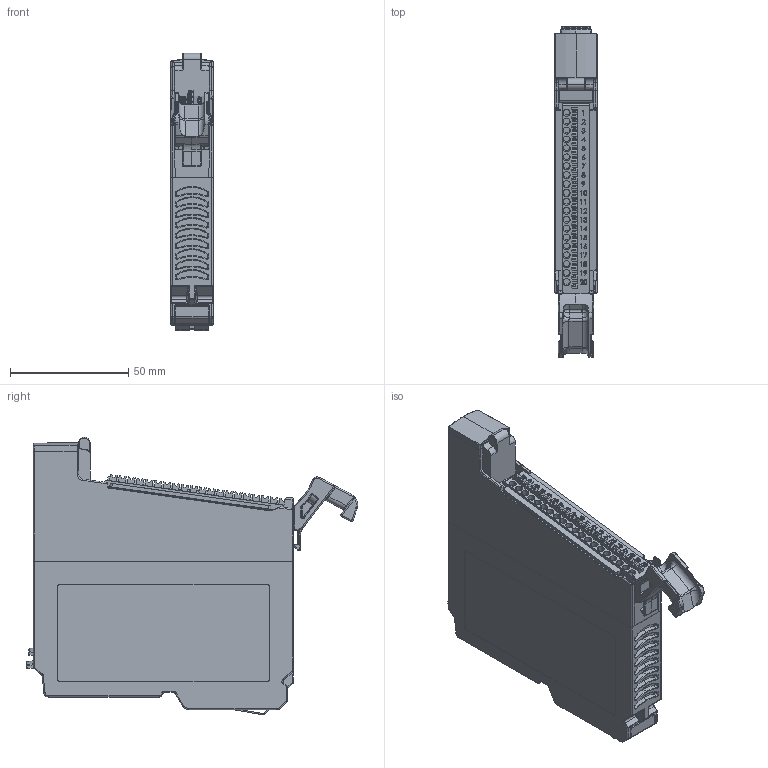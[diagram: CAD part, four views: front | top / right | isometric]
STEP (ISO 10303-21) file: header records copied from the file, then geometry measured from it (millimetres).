
FILE_DESCRIPTION (( 'STEP AP214' ), '1' );
FILE_NAME ('NJ1001_20150928.STEP', '2015-09-28T18:13:20', ( 'ALTUS' ), ( '' ), 'SwSTEP 2.0', 'SolidWorks 2011', '' );
FILE_SCHEMA (( 'AUTOMOTIVE_DESIGN' ));
Length unit declared in the file: millimetre
Products named in the file (1): NJ1001_20150928
Bounding box: 17.9 x 140.24 x 117.46 mm (x, y, z)
Volume: 172349 mm3; surface area: 47387.7 mm2
Topology: 3 solids, 4 shells, 2419 faces, 6156 edges, 3881 vertices
Faces by surface type: plane 1286, bspline 452, cylinder 413, torus 124, cone 104, sphere 40
Entity records: 113056 total; most frequent: CARTESIAN_POINT 31914, ORIENTED_EDGE 12284, DIRECTION 9876, EDGE_CURVE 6142, VERTEX_POINT 3881, LINE 3782, VECTOR 3782, AXIS2_PLACEMENT_3D 3047
